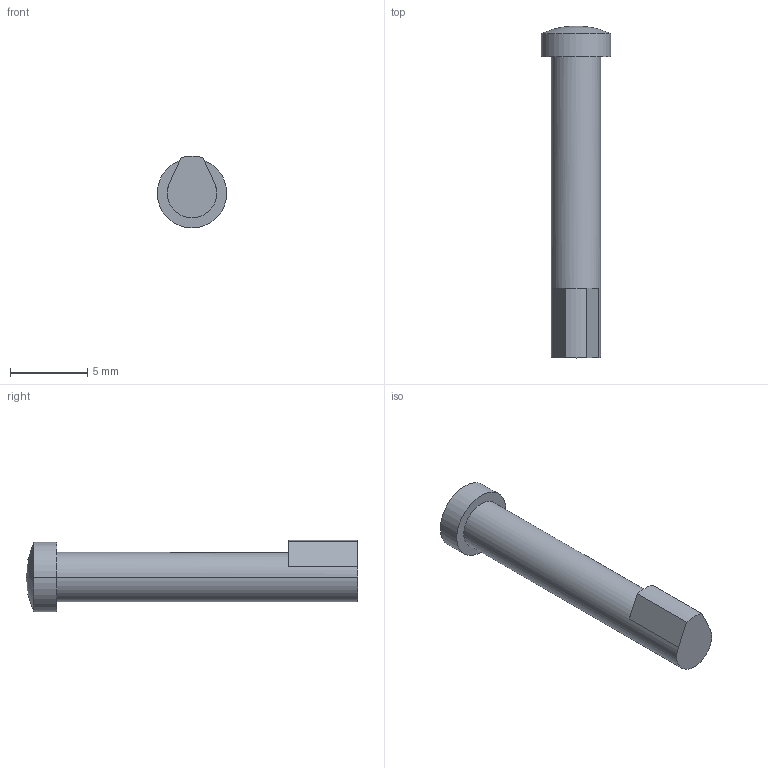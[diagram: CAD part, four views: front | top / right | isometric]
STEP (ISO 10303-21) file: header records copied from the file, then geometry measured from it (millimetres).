
FILE_DESCRIPTION((''),'2;1');
FILE_NAME('64001222_BUTTON_GP_CC6_SBC','2015-02-04T',('mlarsen'),(''),'PRO/ENGINEER BY PARAMETRIC TECHNOLOGY CORPORATION, 2014090','PRO/ENGINEER BY PARAMETRIC TECHNOLOGY CORPORATION, 2014090','');
FILE_SCHEMA(('CONFIG_CONTROL_DESIGN'));
Length unit declared in the file: millimetre
Products named in the file (1): 64001222_BUTTON_GP_CC6_SBC
Bounding box: 4.5 x 21.5 x 4.65 mm (x, y, z)
Volume: 192.1 mm3; surface area: 259.2 mm2
Topology: 1 solids, 1 shells, 12 faces, 28 edges, 17 vertices
Faces by surface type: cylinder 5, plane 5, sphere 2
Entity records: 374 total; most frequent: DIRECTION 64, CARTESIAN_POINT 55, ORIENTED_EDGE 52, AXIS2_PLACEMENT_3D 26, EDGE_CURVE 26, VERTEX_POINT 17, CIRCLE 14, EDGE_LOOP 13
